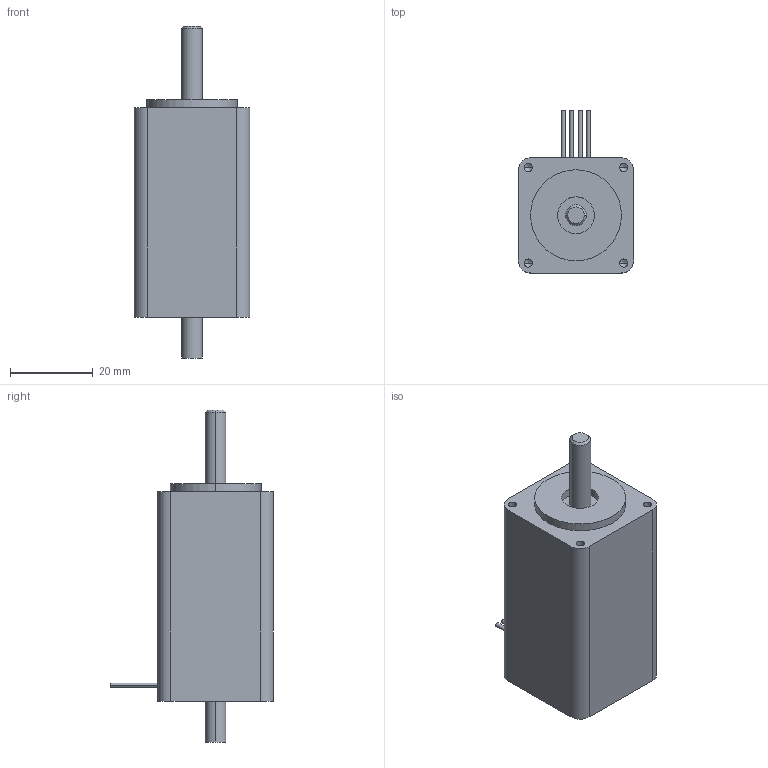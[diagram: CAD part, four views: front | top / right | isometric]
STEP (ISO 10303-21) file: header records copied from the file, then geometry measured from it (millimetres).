
FILE_DESCRIPTION((''),'2;1');
FILE_NAME('C:\Documents and Settings\rbadgerow\Desktop\webmodelmain\web step 3d\211-20 052605\211-20 d.stp','2005-05-27T09:50:02',('rbadgerow'),(''),'Autodesk Inventor 9','Autodesk Inventor 9','');
FILE_SCHEMA(('AUTOMOTIVE_DESIGN { 1 0 10303 214 1 1 1 1 }'));
Length unit declared in the file: inch
Products named in the file (1): 211-20 d
Bounding box: 27.94 x 39.37 x 80.26 mm (x, y, z)
Volume: 40220.5 mm3; surface area: 7845.1 mm2
Topology: 2 solids, 2 shells, 56 faces, 122 edges, 74 vertices
Faces by surface type: cylinder 22, plane 16, bspline 16, cone 2
Entity records: 1724 total; most frequent: CARTESIAN_POINT 517, DIRECTION 258, ORIENTED_EDGE 228, EDGE_CURVE 114, AXIS2_PLACEMENT_3D 103, VERTEX_POINT 74, EDGE_LOOP 68, CIRCLE 62
